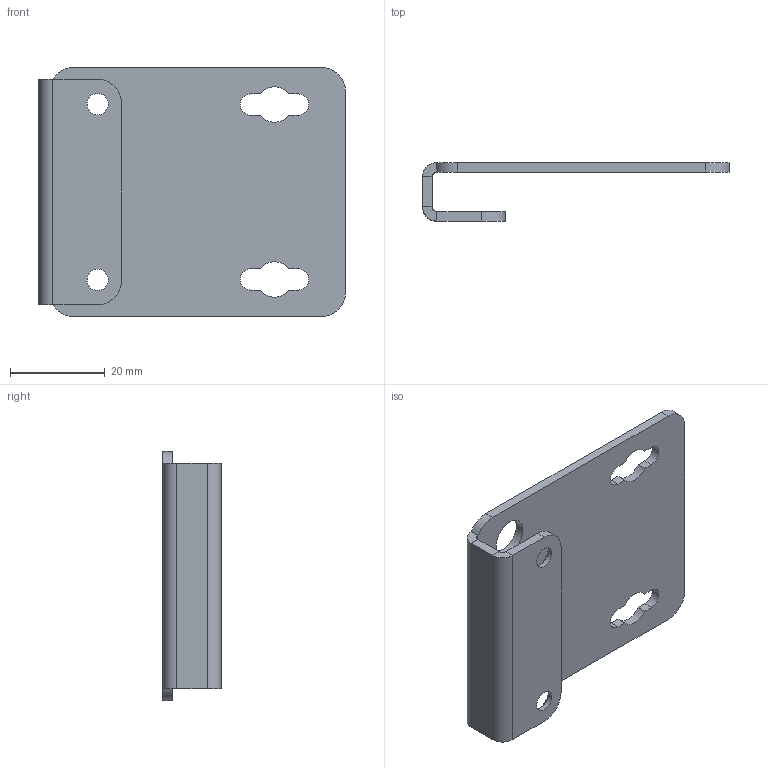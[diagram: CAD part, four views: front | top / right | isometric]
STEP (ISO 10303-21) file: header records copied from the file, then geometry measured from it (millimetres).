
FILE_DESCRIPTION((''),'2;1');
FILE_NAME('BOOK_MOUNT_BRACKET_L_PERF','2021-03-10T12:19:55',('SESA22768'),('Schneider-Electric'),'CREO PARAMETRIC BY PTC INC, 2019164','CREO PARAMETRIC BY PTC INC, 2019164','');
FILE_SCHEMA(('AP242_MANAGED_MODEL_BASED_3D_ENGINEERING_MIM_LF { 1 0 10303 442 1 1 4 }'));
Length unit declared in the file: millimetre
Products named in the file (1): BOOK_MOUNT_BRACKET_L_PERF
Bounding box: 64.9 x 12.35 x 52.7 mm (x, y, z)
Volume: 8482.4 mm3; surface area: 9329.3 mm2
Topology: 1 solids, 1 shells, 56 faces, 184 edges, 148 vertices
Faces by surface type: plane 26, cylinder 26, cone 4
Entity records: 3155 total; most frequent: DIRECTION 402, CARTESIAN_POINT 368, ORIENTED_EDGE 284, PRESENTATION_STYLE_ASSIGNMENT 200, STYLED_ITEM 200, CURVE_STYLE 197, EDGE_CURVE 142, AXIS2_PLACEMENT_3D 141
